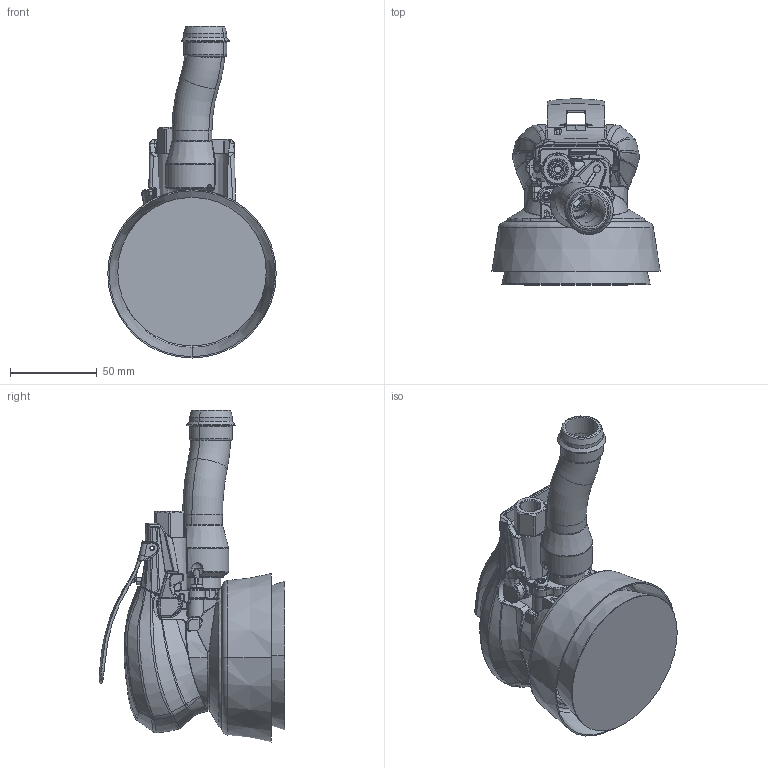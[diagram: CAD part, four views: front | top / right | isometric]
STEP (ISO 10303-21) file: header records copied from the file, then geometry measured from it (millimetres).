
FILE_DESCRIPTION((''),'2;1');
FILE_NAME('SXRX35V_ASM','2009-06-02T',('sdanet'),(''),'PRO/ENGINEER BY PARAMETRIC TECHNOLOGY CORPORATION, 2008250','PRO/ENGINEER BY PARAMETRIC TECHNOLOGY CORPORATION, 2008250','');
FILE_SCHEMA(('AUTOMOTIVE_DESIGN_CC2 { 1 2 10303 214 -1 1 5 2 }'));
Length unit declared in the file: millimetre
Products named in the file (30): CARTER_MODELE_STL_AF3_1; BE17079_AF66_1; 6155652280_AF3_ASM_1_ASM; 6153031080_AF68_1; 6153211930_AF80_1; 6157900340_AF3_1; 6157460720_AF80_1; 6156810890_AF3_1; 6153211920_AF3_1; 6156371580_AF3_1; 6155651960_AF2_ASM_1_ASM; 6153501100_1; 6155801360_1; 6155801380_1; 6156890530_1; 6153501040_1; 6153962550_ASM_1_ASM; 6156731170_AF2_1; MOTEUR_PLATEAU_89_INDUS_AF1_ASM_ASM; VIS_PLATEAU_1; MOUSSE_VINYL_89_1; 6158726970_1; 6159901630_ASM_1_ASM; 6153071490_AF1_1; 6156140780_1; 6156140780_AF1_1; 6153211910_AF1_1; 6153071510_AF1_1; PONCEUSE_XS_VENTURI_89_ASM_ASM; SXRX35V_ASM
Assembly tree (29 placements, depth 5):
  SXRX35V_ASM
    PONCEUSE_XS_VENTURI_89_ASM_ASM
      6155651960_AF2_ASM_1_ASM
        6155652280_AF3_ASM_1_ASM
          CARTER_MODELE_STL_AF3_1
          BE17079_AF66_1
        6153031080_AF68_1
        6153211930_AF80_1
        6157900340_AF3_1
        6157460720_AF80_1
        6156810890_AF3_1
        6153211920_AF3_1
        6156371580_AF3_1
      6153501100_1
      MOTEUR_PLATEAU_89_INDUS_AF1_ASM_ASM
        6155801360_1
        6155801380_1
        6156890530_1
        6153962550_ASM_1_ASM
          6153501040_1
        6156731170_AF2_1
      6159901630_ASM_1_ASM
        VIS_PLATEAU_1
        MOUSSE_VINYL_89_1
        6158726970_1
      6153071490_AF1_1
      6156140780_1
      6156140780_AF1_1
      6153211910_AF1_1
      6153071510_AF1_1
Bounding box: 97 x 107.08 x 191.14 mm (x, y, z)
Volume: 316902.7 mm3; surface area: 174605.3 mm2
Topology: 23 solids, 25 shells, 2901 faces, 7668 edges, 4812 vertices
Faces by surface type: cylinder 845, bspline 711, plane 531, torus 439, cone 288, sphere 58, extrusion 29
Entity records: 159921 total; most frequent: CARTESIAN_POINT 73984, ORIENTED_EDGE 15184, DIRECTION 11744, EDGE_CURVE 7596, AXIS2_PLACEMENT_3D 4940, VERTEX_POINT 4812, B_SPLINE_CURVE_WITH_KNOTS 3102, PRESENTATION_STYLE_ASSIGNMENT 3080
